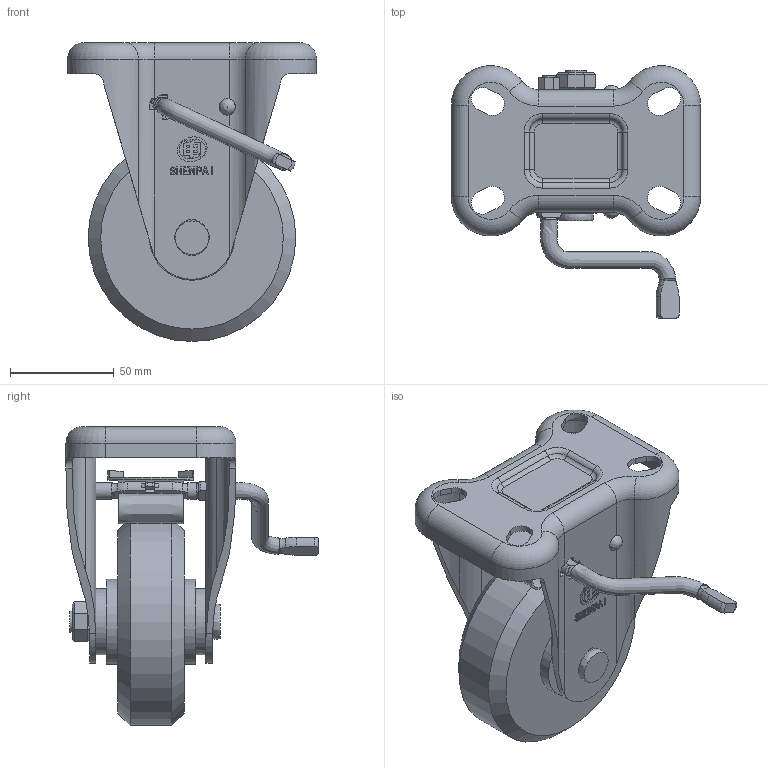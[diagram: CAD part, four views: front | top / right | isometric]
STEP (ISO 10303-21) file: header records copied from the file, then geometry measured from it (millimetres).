
FILE_DESCRIPTION(/* description */ (''),/* implementation_level */ '2;1');
FILE_NAME(/* name */ '25X04_4_F.stp',/* time_stamp */ '2022-08-27T15:05:00+08:00',/* author */ (''),/* organization */ (''),/* preprocessor_version */ 'ST-DEVELOPER v14',/* originating_system */ 'SIEMENS PLM Software NX 8.0',/* authorisation */ '');
FILE_SCHEMA (('AUTOMOTIVE_DESIGN { 1 0 10303 214 3 1 1 1 }'));
Length unit declared in the file: millimetre
Products named in the file (1): 25X04_4_F
Bounding box: 120 x 121.45 x 144 mm (x, y, z)
Volume: 350363.5 mm3; surface area: 88532.7 mm2
Topology: 1 solids, 3 shells, 497 faces, 1317 edges, 853 vertices
Faces by surface type: plane 296, cylinder 124, torus 44, bspline 23, extrusion 8, cone 2
Full cylindrical faces by diameter (mm): 6 x3, 6.1 x1, 6.2 x2, 10 x2, 10.2 x1, 12 x1, 32 x2, 41 x2, 100 x1
Entity records: 18305 total; most frequent: CARTESIAN_POINT 6709, ORIENTED_EDGE 2554, DIRECTION 2165, EDGE_CURVE 1277, VERTEX_POINT 836, AXIS2_PLACEMENT_3D 790, VECTOR 585, LINE 577
